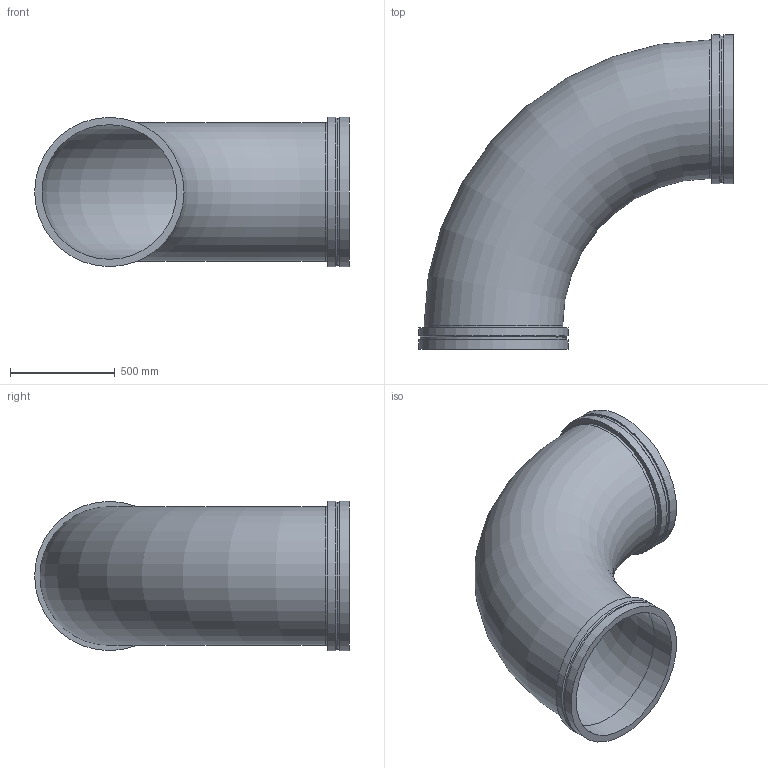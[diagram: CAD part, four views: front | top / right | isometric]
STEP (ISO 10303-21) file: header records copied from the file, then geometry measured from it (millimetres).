
FILE_DESCRIPTION(/* description */ ('VIC 90 DEG ELBOW No W100 VR','CAx-IF Rec.Pracs.---Representation and Presentation of Product Manufacturing Information (PMI)---4.0---2014-10-13'),/* implementation_level */ '2;1');
FILE_NAME(/* name */ 'C:\Users\kkamble\AppData\Roaming\Autodesk\ApplicationPlugins\Back Up\Victaulic_Vic-Ring_Elbow 90 Deg LR_No W100 VR (AGR)\Victaulic_Vic-Ring_Elbow 90 Deg LR_No W100 VR (AGR)_26 (650).stp',/* time_stamp */ '2020-09-10T11:44:02+05:00',/* author */ ('cps_temp'),/* organization */ ('Victaulic'),/* preprocessor_version */ 'ST-DEVELOPER v17.2',/* originating_system */ 'Autodesk Inventor 2019',/* authorisation */ '');
FILE_SCHEMA (('AP242_MANAGED_MODEL_BASED_3D_ENGINEERING_MIM_LF { 1 0 10303 442 1 1 4 }'));
Length unit declared in the file: inch
Products named in the file (1): W100 VR-26.0
Bounding box: 1498.6 x 1498.6 x 711.2 mm (x, y, z)
Volume: 46511421.5 mm3; surface area: 7878836.6 mm2
Topology: 1 solids, 1 shells, 20 faces, 51 edges, 37 vertices
Faces by surface type: cylinder 10, plane 6, cone 2, torus 2
Full cylindrical faces by diameter (mm): 641.35 x2, 660.4 x2, 696.722 x2, 711.2 x4
Entity records: 802 total; most frequent: DIRECTION 158, CARTESIAN_POINT 126, ORIENTED_EDGE 102, AXIS2_PLACEMENT_3D 73, EDGE_CURVE 51, CIRCLE 39, VERTEX_POINT 37, EDGE_LOOP 26
